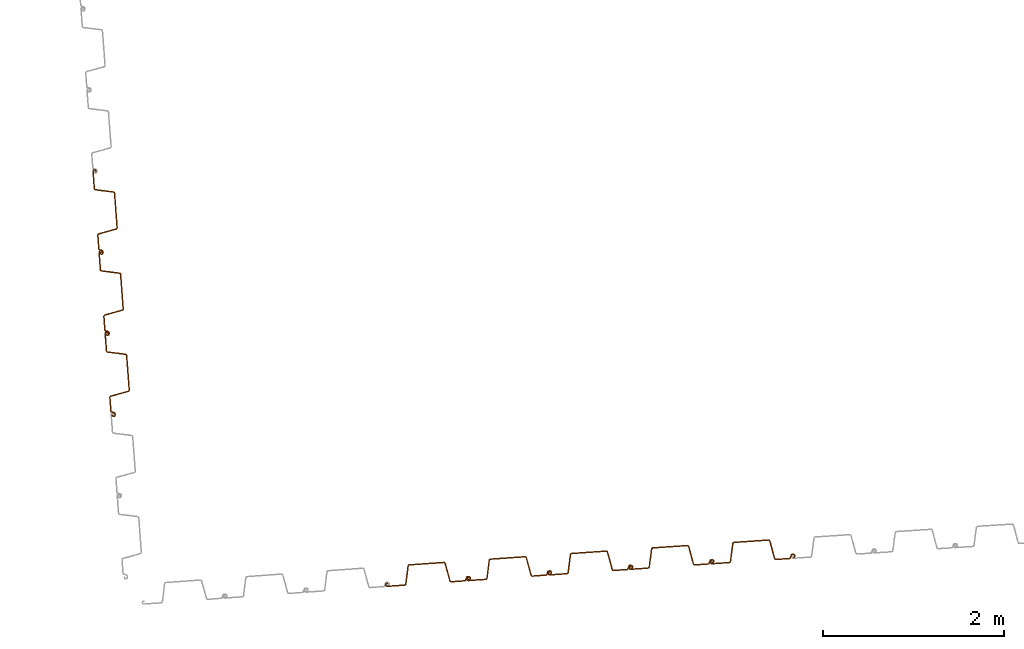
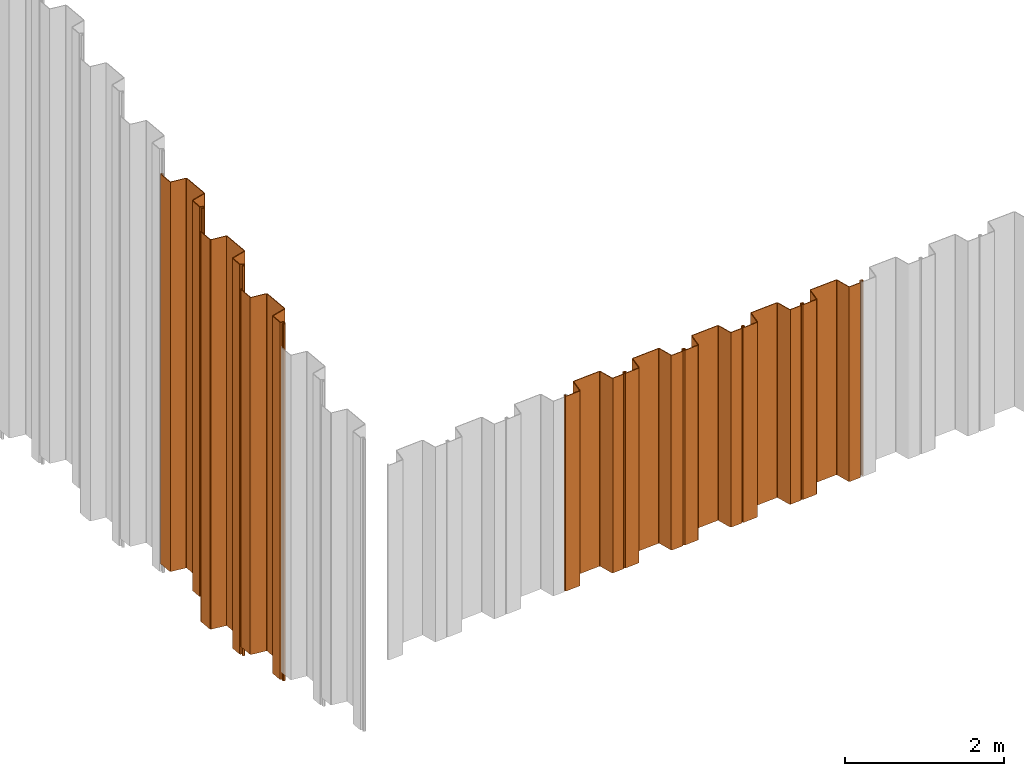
# One storey, part 2 of 12: 8 proxies.
"""IFC2X3 building model written with IfcOpenShell, lengths in millimetres."""

from ifc_helpers import new_model, entity, si_unit, converted_unit, derived_unit, direction, frame, frame_2d, origin, place, context, subcontext, project, spatial, polyline, circle_curve, parameter, trimmed, segment, composite_curve, outline, extrude, source, transform, mapped, material, type_object, type_shapes, element, save


model = new_model("IFC2X3")

# Units and contexts
model_context = context("Model", 3, precision=0.01, world=origin(), true_north=direction((6.12303176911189e-17, 1.0)))
body_context = subcontext(model_context, "Body", "Model", "MODEL_VIEW")
ifc_project = project(units=[si_unit("LENGTHUNIT", "METRE", prefix="MILLI"), si_unit("AREAUNIT", "SQUARE_METRE"), si_unit("VOLUMEUNIT", "CUBIC_METRE"), converted_unit("PLANEANGLEUNIT", "DEGREE", entity("IfcRatioMeasure", 0.0174532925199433), si_unit("PLANEANGLEUNIT", "RADIAN"), dimensions=[0, 0, 0, 0, 0, 0, 0]), si_unit("MASSUNIT", "GRAM", prefix="KILO"), derived_unit("MASSDENSITYUNIT", [(si_unit("MASSUNIT", "GRAM", prefix="KILO"), 1), (si_unit("LENGTHUNIT", "METRE"), -3)]), derived_unit("MOMENTOFINERTIAUNIT", [(si_unit("LENGTHUNIT", "METRE"), 4)]), si_unit("TIMEUNIT", "SECOND"), si_unit("FREQUENCYUNIT", "HERTZ"), si_unit("THERMODYNAMICTEMPERATUREUNIT", "DEGREE_CELSIUS"), derived_unit("THERMALTRANSMITTANCEUNIT", [(si_unit("MASSUNIT", "GRAM", prefix="KILO"), 1), (si_unit("THERMODYNAMICTEMPERATUREUNIT", "KELVIN"), -1), (si_unit("TIMEUNIT", "SECOND"), -3)]), derived_unit("VOLUMETRICFLOWRATEUNIT", [(si_unit("LENGTHUNIT", "METRE"), 3), (si_unit("TIMEUNIT", "SECOND"), -1)]), si_unit("ELECTRICCURRENTUNIT", "AMPERE"), si_unit("ELECTRICVOLTAGEUNIT", "VOLT"), si_unit("POWERUNIT", "WATT"), si_unit("FORCEUNIT", "NEWTON", prefix="KILO"), si_unit("ILLUMINANCEUNIT", "LUX"), si_unit("LUMINOUSFLUXUNIT", "LUMEN"), si_unit("LUMINOUSINTENSITYUNIT", "CANDELA"), derived_unit("USERDEFINED", [(si_unit("MASSUNIT", "GRAM", prefix="KILO"), -1), (si_unit("LENGTHUNIT", "METRE"), -2), (si_unit("TIMEUNIT", "SECOND"), 3), (si_unit("LUMINOUSFLUXUNIT", "LUMEN"), 1)]), derived_unit("LINEARVELOCITYUNIT", [(si_unit("LENGTHUNIT", "METRE"), 1), (si_unit("TIMEUNIT", "SECOND"), -1)]), si_unit("PRESSUREUNIT", "PASCAL"), derived_unit("USERDEFINED", [(si_unit("LENGTHUNIT", "METRE"), -2), (si_unit("MASSUNIT", "GRAM", prefix="KILO"), 1), (si_unit("TIMEUNIT", "SECOND"), -2)]), derived_unit("LINEARFORCEUNIT", [(si_unit("MASSUNIT", "GRAM", prefix="KILO"), 1), (si_unit("LENGTHUNIT", "METRE"), 1), (si_unit("TIMEUNIT", "SECOND"), -2), (si_unit("LENGTHUNIT", "METRE"), -1)]), derived_unit("PLANARFORCEUNIT", [(si_unit("MASSUNIT", "GRAM", prefix="KILO"), 1), (si_unit("LENGTHUNIT", "METRE"), 1), (si_unit("TIMEUNIT", "SECOND"), -2), (si_unit("LENGTHUNIT", "METRE"), -2)])], contexts=[model_context])

# Site, building, storey
site_placement = place(None, origin())
site = spatial("IfcSite", under=ifc_project, at=site_placement, Name="Default", CompositionType="ELEMENT")
building_placement = place(site_placement, origin())
building = spatial("IfcBuilding", under=site, at=building_placement, CompositionType="ELEMENT")
storey_placement = place(building_placement, frame((0.0, 0.0, 10600.0)))
storey = spatial("IfcBuildingStorey", under=building, at=storey_placement, Name="AP+10.600", CompositionType="ELEMENT", Elevation=10600.0)

# Proxies
ifc_material = material(Name="<Unnamed>")
building_element_proxy_type_1 = type_object("IfcBuildingElementProxyType", Name="鋼矢板10H型:鋼矢板10H型", PredefinedType="NOTDEFINED", material=ifc_material)
shared_shape_1 = source(origin(), body_context, "Body", "SweptSolid", [
    extrude(outline(composite_curve([segment(trimmed(circle_curve(frame_2d((85.3662976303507, 306.644432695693), x_axis=(0.422618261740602, 0.906307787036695)), 13.885714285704), [parameter(24.9999999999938)], [parameter(90.0000000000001)], True, "PARAMETER"), True, "CONTINUOUS"), segment(polyline([(72.7815666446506, 312.512789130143), (9.8129512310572, 177.476157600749)]), True, "CONTINUOUS"), segment(trimmed(circle_curve(frame_2d((29.3891994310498, 168.347603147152), x_axis=(0.422618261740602, 0.906307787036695)), 21.6), [parameter(90.0000000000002)], [parameter(168.69006752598)], True, "PARAMETER"), True, "CONTINUOUS"), segment(polyline([(16.598697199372, 150.941769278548), (175.329723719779, 34.2998683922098)]), True, "CONTINUOUS"), segment(trimmed(circle_curve(frame_2d((168.93447260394, 25.596951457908), x_axis=(0.422618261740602, 0.906307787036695)), 10.7999999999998), [parameter(270.0)], [parameter(348.690067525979)], True, "PARAMETER"), False, "CONTINUOUS"), segment(polyline([(178.722596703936, 21.0326742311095), (18.2974003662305, -323.000269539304)]), True, "CONTINUOUS"), segment(trimmed(circle_curve(frame_2d((8.50927626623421, -318.435992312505), x_axis=(0.422618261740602, 0.906307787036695)), 10.8), [parameter(191.30993247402)], [parameter(269.999999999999)], True, "PARAMETER"), False, "CONTINUOUS"), segment(polyline([(5.95324328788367, -328.929166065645), (-185.429973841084, -282.310113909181)]), True, "CONTINUOUS"), segment(trimmed(circle_curve(frame_2d((-190.542039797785, -303.296461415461), x_axis=(0.422618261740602, 0.906307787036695)), 21.6000000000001), [parameter(11.3099324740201)], [parameter(90.0000000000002)], True, "PARAMETER"), True, "CONTINUOUS"), segment(polyline([(-210.118287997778, -294.167906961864), (-290.330886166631, -466.184378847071)]), True, "CONTINUOUS"), segment(trimmed(circle_curve(frame_2d((-270.754637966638, -475.312933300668), x_axis=(0.422618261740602, 0.906307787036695)), 21.6), [parameter(90.0000000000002)], [parameter(269.999999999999)], True, "PARAMETER"), True, "CONTINUOUS"), segment(polyline([(-251.178389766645, -484.441487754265), (-249.065298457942, -479.909948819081)]), True, "CONTINUOUS"), segment(polyline([(-249.065298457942, -479.909948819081), (-258.853422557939, -475.345671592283)]), True, "CONTINUOUS"), segment(polyline([(-258.853422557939, -475.345671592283), (-260.966513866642, -479.877210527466)]), True, "CONTINUOUS"), segment(trimmed(circle_curve(frame_2d((-270.754637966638, -475.312933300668), x_axis=(0.422618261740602, 0.906307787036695)), 10.8), [parameter(90.0000000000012)], [parameter(270.0)], True, "PARAMETER"), False, "CONTINUOUS"), segment(polyline([(-280.542762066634, -470.748656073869), (-200.330163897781, -298.732184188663)]), True, "CONTINUOUS"), segment(trimmed(circle_curve(frame_2d((-190.542039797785, -303.296461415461), x_axis=(0.422618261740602, 0.906307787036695)), 10.8), [parameter(11.3099324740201)], [parameter(89.9999999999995)], True, "PARAMETER"), False, "CONTINUOUS"), segment(polyline([(-187.986006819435, -292.803287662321), (3.39721030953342, -339.422339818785)]), True, "CONTINUOUS"), segment(trimmed(circle_curve(frame_2d((8.50927626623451, -318.435992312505), x_axis=(0.422618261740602, 0.906307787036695)), 21.6), [parameter(191.30993247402)], [parameter(270.0)], True, "PARAMETER"), True, "CONTINUOUS"), segment(polyline([(28.0855244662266, -327.564546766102), (188.510720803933, 16.4683970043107)]), True, "CONTINUOUS"), segment(trimmed(circle_curve(frame_2d((168.93447260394, 25.5969514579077), x_axis=(0.422618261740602, 0.906307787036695)), 21.6), [parameter(270.0)], [parameter(348.69006752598)], True, "PARAMETER"), True, "CONTINUOUS"), segment(polyline([(181.724974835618, 43.0027853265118), (22.9939483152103, 159.644686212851)]), True, "CONTINUOUS"), segment(trimmed(circle_curve(frame_2d((29.3891994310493, 168.347603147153), x_axis=(0.422618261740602, 0.906307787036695)), 10.7999999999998), [parameter(89.9999999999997)], [parameter(168.690067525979)], True, "PARAMETER"), False, "CONTINUOUS"), segment(polyline([(19.6010753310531, 172.911880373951), (82.5696907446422, 307.948511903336)]), True, "CONTINUOUS"), segment(trimmed(circle_curve(frame_2d((85.3662976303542, 306.64443269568), x_axis=(0.422618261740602, 0.906307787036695)), 3.08571428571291), [parameter(25.0000000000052)], [parameter(90.0000000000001)], True, "PARAMETER"), False, "CONTINUOUS"), segment(polyline([(85.3662976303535, 309.730146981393), (122.220231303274, 309.730146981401)]), True, "CONTINUOUS"), segment(trimmed(circle_curve(frame_2d((122.220231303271, 323.615861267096), x_axis=(0.422618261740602, 0.906307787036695)), 13.8857142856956), [parameter(205.000000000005)], [parameter(270.0)], True, "PARAMETER"), True, "CONTINUOUS"), segment(polyline([(134.804962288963, 317.747504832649), (141.079261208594, 331.202782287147)]), True, "CONTINUOUS"), segment(trimmed(circle_curve(frame_2d((121.503013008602, 340.331336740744), x_axis=(0.422618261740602, 0.906307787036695)), 21.6), [parameter(270.0)], [parameter(90.0000000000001)], True, "PARAMETER"), True, "CONTINUOUS"), segment(polyline([(101.926764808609, 349.459891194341), (99.8136734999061, 344.928352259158)]), True, "CONTINUOUS"), segment(polyline([(99.8136734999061, 344.928352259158), (109.601797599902, 340.364075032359)]), True, "CONTINUOUS"), segment(polyline([(109.601797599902, 340.364075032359), (111.714888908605, 344.895613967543)]), True, "CONTINUOUS"), segment(trimmed(circle_curve(frame_2d((121.503013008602, 340.331336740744), x_axis=(0.422618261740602, 0.906307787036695)), 10.8), [parameter(270.0)], [parameter(89.9999999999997)], True, "PARAMETER"), False, "CONTINUOUS"), segment(polyline([(131.291137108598, 335.767059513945), (125.01683818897, 322.311782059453)]), True, "CONTINUOUS"), segment(trimmed(circle_curve(frame_2d((122.220231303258, 323.615861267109), x_axis=(0.422618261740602, 0.906307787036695)), 3.08571428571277), [parameter(204.999999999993)], [parameter(270.0)], True, "PARAMETER"), False, "CONTINUOUS"), segment(polyline([(122.220231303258, 320.530146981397), (85.3662976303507, 320.530146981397)]), True, "CONTINUOUS")], self_intersect=False)), frame((95.205667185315, -48.8888888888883, -3000.0), z_axis=(0.0, 0.0, -1.0), x_axis=(0.4226182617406, 0.906307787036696, 0.0)), (0.0, 0.0, -1.0), 3000.0),
])
type_shapes(building_element_proxy_type_1, [shared_shape_1])
for number, where, z_axis, x_axis in (
    (1, (-81713.1901678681, -17671.5087666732, -650.0), (0.0, 0.0, 1.0), (0.997743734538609, 0.0671374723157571, 0.0)),
    (2, (-82611.1311551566, -17732.3428677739, -650.0), (0.0, 0.0, 1.0), (0.997681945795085, 0.0680495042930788, 0.0)),
    (3, (-83509.016010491, -17793.9977610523, -650.0), (0.0, 0.0, 1.0), (0.997619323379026, 0.068961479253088, 0.0)),
    (4, (-84406.8442775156, -17856.4734158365, -650.0), (0.0, 0.0, 1.0), (0.997555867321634, 0.0698733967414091, 0.0)),
    (5, (-85304.6149120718, -17919.7697588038, -650.0), (0.0, 0.0, 1.0), (0.997491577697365, 0.0707852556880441, 0.0)),
):
    element("IfcBuildingElementProxy", number, at=place(storey_placement, frame(where, z_axis=z_axis, x_axis=x_axis)), inside=storey, type_object=building_element_proxy_type_1, material=ifc_material, Name="鋼矢板10H型:鋼矢板10H型", ObjectType="鋼矢板10H型:鋼矢板10H型", context=body_context, shape_type="MappedRepresentation", body=[
        mapped(shared_shape_1, transform((0.0, 0.0, 0.0), scale=1.0)),
    ])
building_element_proxy_type_2 = type_object("IfcBuildingElementProxyType", Name="鋼矢板10H型:鋼矢板10H型", PredefinedType="NOTDEFINED", material=ifc_material)
shared_shape_2 = source(origin(), body_context, "Body", "SweptSolid", [
    extrude(outline(composite_curve([segment(trimmed(circle_curve(frame_2d((85.3662976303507, 306.644432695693), x_axis=(0.422618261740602, 0.906307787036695)), 13.885714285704), [parameter(24.9999999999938)], [parameter(90.0000000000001)], True, "PARAMETER"), True, "CONTINUOUS"), segment(polyline([(72.7815666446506, 312.512789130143), (9.8129512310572, 177.476157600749)]), True, "CONTINUOUS"), segment(trimmed(circle_curve(frame_2d((29.3891994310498, 168.347603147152), x_axis=(0.422618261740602, 0.906307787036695)), 21.6), [parameter(90.0000000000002)], [parameter(168.69006752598)], True, "PARAMETER"), True, "CONTINUOUS"), segment(polyline([(16.598697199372, 150.941769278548), (175.329723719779, 34.2998683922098)]), True, "CONTINUOUS"), segment(trimmed(circle_curve(frame_2d((168.93447260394, 25.596951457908), x_axis=(0.422618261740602, 0.906307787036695)), 10.7999999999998), [parameter(270.0)], [parameter(348.690067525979)], True, "PARAMETER"), False, "CONTINUOUS"), segment(polyline([(178.722596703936, 21.0326742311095), (18.2974003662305, -323.000269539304)]), True, "CONTINUOUS"), segment(trimmed(circle_curve(frame_2d((8.50927626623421, -318.435992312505), x_axis=(0.422618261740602, 0.906307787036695)), 10.8), [parameter(191.30993247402)], [parameter(269.999999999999)], True, "PARAMETER"), False, "CONTINUOUS"), segment(polyline([(5.95324328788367, -328.929166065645), (-185.429973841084, -282.310113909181)]), True, "CONTINUOUS"), segment(trimmed(circle_curve(frame_2d((-190.542039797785, -303.296461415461), x_axis=(0.422618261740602, 0.906307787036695)), 21.6000000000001), [parameter(11.3099324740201)], [parameter(90.0000000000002)], True, "PARAMETER"), True, "CONTINUOUS"), segment(polyline([(-210.118287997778, -294.167906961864), (-290.330886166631, -466.184378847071)]), True, "CONTINUOUS"), segment(trimmed(circle_curve(frame_2d((-270.754637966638, -475.312933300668), x_axis=(0.422618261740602, 0.906307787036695)), 21.6), [parameter(90.0000000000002)], [parameter(269.999999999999)], True, "PARAMETER"), True, "CONTINUOUS"), segment(polyline([(-251.178389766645, -484.441487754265), (-249.065298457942, -479.909948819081)]), True, "CONTINUOUS"), segment(polyline([(-249.065298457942, -479.909948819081), (-258.853422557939, -475.345671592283)]), True, "CONTINUOUS"), segment(polyline([(-258.853422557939, -475.345671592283), (-260.966513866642, -479.877210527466)]), True, "CONTINUOUS"), segment(trimmed(circle_curve(frame_2d((-270.754637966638, -475.312933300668), x_axis=(0.422618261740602, 0.906307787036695)), 10.8), [parameter(90.0000000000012)], [parameter(270.0)], True, "PARAMETER"), False, "CONTINUOUS"), segment(polyline([(-280.542762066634, -470.748656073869), (-200.330163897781, -298.732184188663)]), True, "CONTINUOUS"), segment(trimmed(circle_curve(frame_2d((-190.542039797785, -303.296461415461), x_axis=(0.422618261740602, 0.906307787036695)), 10.8), [parameter(11.3099324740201)], [parameter(89.9999999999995)], True, "PARAMETER"), False, "CONTINUOUS"), segment(polyline([(-187.986006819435, -292.803287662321), (3.39721030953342, -339.422339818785)]), True, "CONTINUOUS"), segment(trimmed(circle_curve(frame_2d((8.50927626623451, -318.435992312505), x_axis=(0.422618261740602, 0.906307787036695)), 21.6), [parameter(191.30993247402)], [parameter(270.0)], True, "PARAMETER"), True, "CONTINUOUS"), segment(polyline([(28.0855244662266, -327.564546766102), (188.510720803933, 16.4683970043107)]), True, "CONTINUOUS"), segment(trimmed(circle_curve(frame_2d((168.93447260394, 25.5969514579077), x_axis=(0.422618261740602, 0.906307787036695)), 21.6), [parameter(270.0)], [parameter(348.69006752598)], True, "PARAMETER"), True, "CONTINUOUS"), segment(polyline([(181.724974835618, 43.0027853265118), (22.9939483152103, 159.644686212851)]), True, "CONTINUOUS"), segment(trimmed(circle_curve(frame_2d((29.3891994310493, 168.347603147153), x_axis=(0.422618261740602, 0.906307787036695)), 10.7999999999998), [parameter(89.9999999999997)], [parameter(168.690067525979)], True, "PARAMETER"), False, "CONTINUOUS"), segment(polyline([(19.6010753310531, 172.911880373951), (82.5696907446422, 307.948511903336)]), True, "CONTINUOUS"), segment(trimmed(circle_curve(frame_2d((85.3662976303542, 306.64443269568), x_axis=(0.422618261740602, 0.906307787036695)), 3.08571428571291), [parameter(25.0000000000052)], [parameter(90.0000000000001)], True, "PARAMETER"), False, "CONTINUOUS"), segment(polyline([(85.3662976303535, 309.730146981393), (122.220231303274, 309.730146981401)]), True, "CONTINUOUS"), segment(trimmed(circle_curve(frame_2d((122.220231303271, 323.615861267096), x_axis=(0.422618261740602, 0.906307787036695)), 13.8857142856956), [parameter(205.000000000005)], [parameter(270.0)], True, "PARAMETER"), True, "CONTINUOUS"), segment(polyline([(134.804962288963, 317.747504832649), (141.079261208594, 331.202782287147)]), True, "CONTINUOUS"), segment(trimmed(circle_curve(frame_2d((121.503013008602, 340.331336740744), x_axis=(0.422618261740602, 0.906307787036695)), 21.6), [parameter(270.0)], [parameter(90.0000000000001)], True, "PARAMETER"), True, "CONTINUOUS"), segment(polyline([(101.926764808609, 349.459891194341), (99.8136734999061, 344.928352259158)]), True, "CONTINUOUS"), segment(polyline([(99.8136734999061, 344.928352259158), (109.601797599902, 340.364075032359)]), True, "CONTINUOUS"), segment(polyline([(109.601797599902, 340.364075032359), (111.714888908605, 344.895613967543)]), True, "CONTINUOUS"), segment(trimmed(circle_curve(frame_2d((121.503013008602, 340.331336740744), x_axis=(0.422618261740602, 0.906307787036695)), 10.8), [parameter(270.0)], [parameter(89.9999999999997)], True, "PARAMETER"), False, "CONTINUOUS"), segment(polyline([(131.291137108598, 335.767059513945), (125.01683818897, 322.311782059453)]), True, "CONTINUOUS"), segment(trimmed(circle_curve(frame_2d((122.220231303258, 323.615861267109), x_axis=(0.422618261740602, 0.906307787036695)), 3.08571428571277), [parameter(204.999999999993)], [parameter(270.0)], True, "PARAMETER"), False, "CONTINUOUS"), segment(polyline([(122.220231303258, 320.530146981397), (85.3662976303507, 320.530146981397)]), True, "CONTINUOUS")], self_intersect=False)), frame((95.205667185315, -48.8888888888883, -5500.0), z_axis=(0.0, 0.0, -1.0), x_axis=(0.4226182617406, 0.906307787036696, 0.0)), (0.0, 0.0, -1.0), 5500.0),
])
type_shapes(building_element_proxy_type_2, [shared_shape_2])
proxy_placement = place(storey_placement, frame((-88724.5604632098, -15706.5628746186, 383.052684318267), z_axis=(0.0, 0.0, 1.0), x_axis=(0.0743258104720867, -0.997234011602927, 0.0)))
element("IfcBuildingElementProxy", 6, at=proxy_placement, inside=storey, type_object=building_element_proxy_type_2, material=ifc_material, Name="鋼矢板10H型:鋼矢板10H型", ObjectType="鋼矢板10H型:鋼矢板10H型", context=body_context, shape_type="MappedRepresentation", body=[
    mapped(shared_shape_2, transform((0.0, 0.0, 0.0), scale=1.0)),
])
building_element_proxy_type_3 = type_object("IfcBuildingElementProxyType", Name="鋼矢板10H型:鋼矢板10H型", PredefinedType="NOTDEFINED", material=ifc_material)
shared_shape_3 = source(origin(), body_context, "Body", "SweptSolid", [
    extrude(outline(composite_curve([segment(trimmed(circle_curve(frame_2d((85.3662976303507, 306.644432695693), x_axis=(0.422618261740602, 0.906307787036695)), 13.885714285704), [parameter(24.9999999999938)], [parameter(90.0000000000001)], True, "PARAMETER"), True, "CONTINUOUS"), segment(polyline([(72.7815666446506, 312.512789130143), (9.8129512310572, 177.476157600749)]), True, "CONTINUOUS"), segment(trimmed(circle_curve(frame_2d((29.3891994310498, 168.347603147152), x_axis=(0.422618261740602, 0.906307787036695)), 21.6), [parameter(90.0000000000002)], [parameter(168.69006752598)], True, "PARAMETER"), True, "CONTINUOUS"), segment(polyline([(16.598697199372, 150.941769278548), (175.329723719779, 34.2998683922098)]), True, "CONTINUOUS"), segment(trimmed(circle_curve(frame_2d((168.93447260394, 25.596951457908), x_axis=(0.422618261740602, 0.906307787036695)), 10.7999999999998), [parameter(270.0)], [parameter(348.690067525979)], True, "PARAMETER"), False, "CONTINUOUS"), segment(polyline([(178.722596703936, 21.0326742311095), (18.2974003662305, -323.000269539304)]), True, "CONTINUOUS"), segment(trimmed(circle_curve(frame_2d((8.50927626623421, -318.435992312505), x_axis=(0.422618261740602, 0.906307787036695)), 10.8), [parameter(191.30993247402)], [parameter(269.999999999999)], True, "PARAMETER"), False, "CONTINUOUS"), segment(polyline([(5.95324328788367, -328.929166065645), (-185.429973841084, -282.310113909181)]), True, "CONTINUOUS"), segment(trimmed(circle_curve(frame_2d((-190.542039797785, -303.296461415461), x_axis=(0.422618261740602, 0.906307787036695)), 21.6000000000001), [parameter(11.3099324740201)], [parameter(90.0000000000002)], True, "PARAMETER"), True, "CONTINUOUS"), segment(polyline([(-210.118287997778, -294.167906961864), (-290.330886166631, -466.184378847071)]), True, "CONTINUOUS"), segment(trimmed(circle_curve(frame_2d((-270.754637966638, -475.312933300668), x_axis=(0.422618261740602, 0.906307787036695)), 21.6), [parameter(90.0000000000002)], [parameter(269.999999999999)], True, "PARAMETER"), True, "CONTINUOUS"), segment(polyline([(-251.178389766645, -484.441487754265), (-249.065298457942, -479.909948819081)]), True, "CONTINUOUS"), segment(polyline([(-249.065298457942, -479.909948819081), (-258.853422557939, -475.345671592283)]), True, "CONTINUOUS"), segment(polyline([(-258.853422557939, -475.345671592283), (-260.966513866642, -479.877210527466)]), True, "CONTINUOUS"), segment(trimmed(circle_curve(frame_2d((-270.754637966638, -475.312933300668), x_axis=(0.422618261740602, 0.906307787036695)), 10.8), [parameter(90.0000000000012)], [parameter(270.0)], True, "PARAMETER"), False, "CONTINUOUS"), segment(polyline([(-280.542762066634, -470.748656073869), (-200.330163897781, -298.732184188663)]), True, "CONTINUOUS"), segment(trimmed(circle_curve(frame_2d((-190.542039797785, -303.296461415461), x_axis=(0.422618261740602, 0.906307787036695)), 10.8), [parameter(11.3099324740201)], [parameter(89.9999999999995)], True, "PARAMETER"), False, "CONTINUOUS"), segment(polyline([(-187.986006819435, -292.803287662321), (3.39721030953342, -339.422339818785)]), True, "CONTINUOUS"), segment(trimmed(circle_curve(frame_2d((8.50927626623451, -318.435992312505), x_axis=(0.422618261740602, 0.906307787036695)), 21.6), [parameter(191.30993247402)], [parameter(270.0)], True, "PARAMETER"), True, "CONTINUOUS"), segment(polyline([(28.0855244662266, -327.564546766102), (188.510720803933, 16.4683970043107)]), True, "CONTINUOUS"), segment(trimmed(circle_curve(frame_2d((168.93447260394, 25.5969514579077), x_axis=(0.422618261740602, 0.906307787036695)), 21.6), [parameter(270.0)], [parameter(348.69006752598)], True, "PARAMETER"), True, "CONTINUOUS"), segment(polyline([(181.724974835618, 43.0027853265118), (22.9939483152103, 159.644686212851)]), True, "CONTINUOUS"), segment(trimmed(circle_curve(frame_2d((29.3891994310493, 168.347603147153), x_axis=(0.422618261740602, 0.906307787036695)), 10.7999999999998), [parameter(89.9999999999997)], [parameter(168.690067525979)], True, "PARAMETER"), False, "CONTINUOUS"), segment(polyline([(19.6010753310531, 172.911880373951), (82.5696907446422, 307.948511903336)]), True, "CONTINUOUS"), segment(trimmed(circle_curve(frame_2d((85.3662976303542, 306.64443269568), x_axis=(0.422618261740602, 0.906307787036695)), 3.08571428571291), [parameter(25.0000000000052)], [parameter(90.0000000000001)], True, "PARAMETER"), False, "CONTINUOUS"), segment(polyline([(85.3662976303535, 309.730146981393), (122.220231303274, 309.730146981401)]), True, "CONTINUOUS"), segment(trimmed(circle_curve(frame_2d((122.220231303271, 323.615861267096), x_axis=(0.422618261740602, 0.906307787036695)), 13.8857142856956), [parameter(205.000000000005)], [parameter(270.0)], True, "PARAMETER"), True, "CONTINUOUS"), segment(polyline([(134.804962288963, 317.747504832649), (141.079261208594, 331.202782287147)]), True, "CONTINUOUS"), segment(trimmed(circle_curve(frame_2d((121.503013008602, 340.331336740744), x_axis=(0.422618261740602, 0.906307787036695)), 21.6), [parameter(270.0)], [parameter(90.0000000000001)], True, "PARAMETER"), True, "CONTINUOUS"), segment(polyline([(101.926764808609, 349.459891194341), (99.8136734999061, 344.928352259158)]), True, "CONTINUOUS"), segment(polyline([(99.8136734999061, 344.928352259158), (109.601797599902, 340.364075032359)]), True, "CONTINUOUS"), segment(polyline([(109.601797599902, 340.364075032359), (111.714888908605, 344.895613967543)]), True, "CONTINUOUS"), segment(trimmed(circle_curve(frame_2d((121.503013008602, 340.331336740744), x_axis=(0.422618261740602, 0.906307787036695)), 10.8), [parameter(270.0)], [parameter(89.9999999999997)], True, "PARAMETER"), False, "CONTINUOUS"), segment(polyline([(131.291137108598, 335.767059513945), (125.01683818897, 322.311782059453)]), True, "CONTINUOUS"), segment(trimmed(circle_curve(frame_2d((122.220231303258, 323.615861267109), x_axis=(0.422618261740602, 0.906307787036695)), 3.08571428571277), [parameter(204.999999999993)], [parameter(270.0)], True, "PARAMETER"), False, "CONTINUOUS"), segment(polyline([(122.220231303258, 320.530146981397), (85.3662976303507, 320.530146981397)]), True, "CONTINUOUS")], self_intersect=False)), frame((95.205667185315, -48.8888888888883, -6000.0), z_axis=(0.0, 0.0, -1.0), x_axis=(0.4226182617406, 0.906307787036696, 0.0)), (0.0, 0.0, -1.0), 6000.0),
])
type_shapes(building_element_proxy_type_3, [shared_shape_3])
for number, where, z_axis, x_axis in (
    (7, (-88858.3469220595, -13911.5416537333, 1118.85268431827), (0.0, 0.0, 1.0), (0.0743258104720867, -0.997234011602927, 0.0)),
    (8, (-88791.4536926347, -14809.0522641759, 750.952684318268), (0.0, 0.0, 1.0), (0.0743258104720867, -0.997234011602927, 0.0)),
):
    element("IfcBuildingElementProxy", number, at=place(storey_placement, frame(where, z_axis=z_axis, x_axis=x_axis)), inside=storey, type_object=building_element_proxy_type_3, material=ifc_material, Name="鋼矢板10H型:鋼矢板10H型", ObjectType="鋼矢板10H型:鋼矢板10H型", context=body_context, shape_type="MappedRepresentation", body=[
        mapped(shared_shape_3, transform((0.0, 0.0, 0.0), scale=1.0)),
    ])

save(model, "model.ifc")
